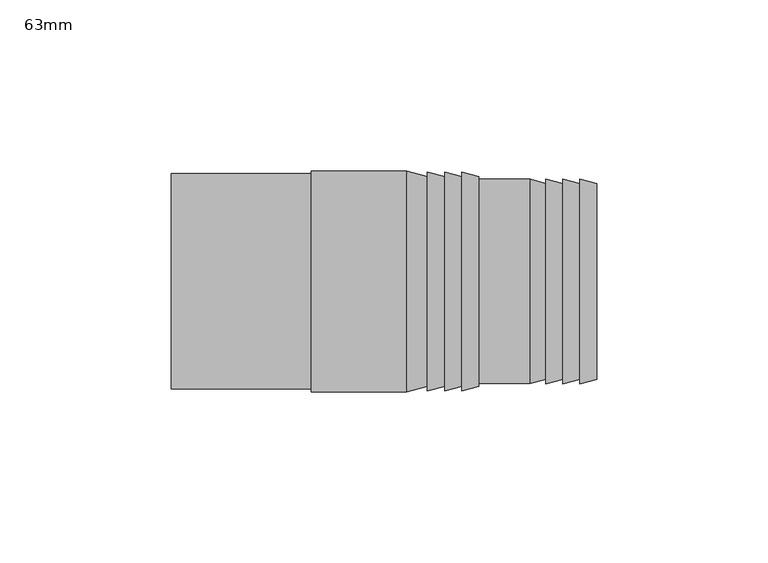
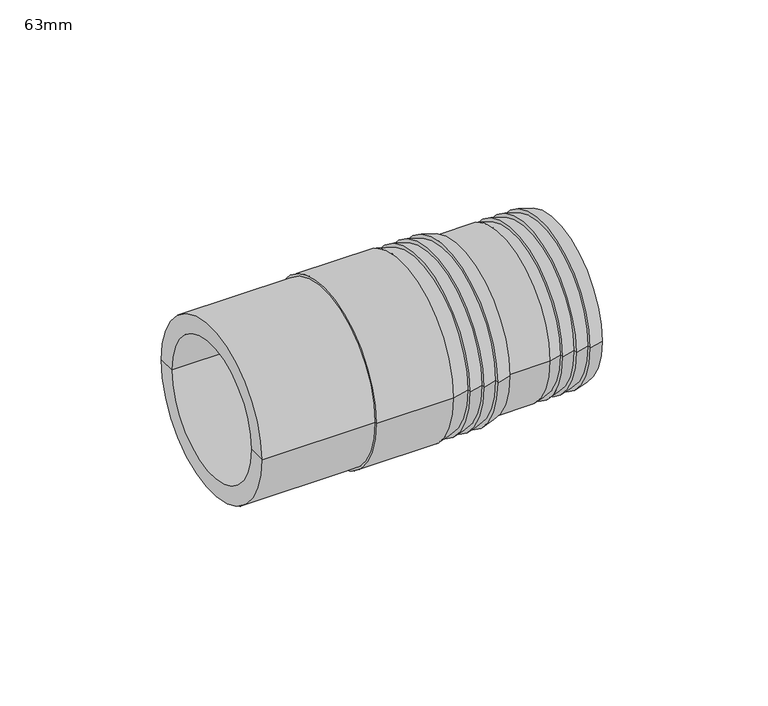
"""IFC4 building model written with IfcOpenShell, lengths in millimetres: pipe fitting geometry, Durapipe_PipeAccessories_PVC_HoseAdaptor : 63mm."""

from ifc_helpers import new_model, si_unit, frame, origin, place, context, project, spatial, polyline, circle_curve, source, transform, mapped, element, save
from ifc_brep_helpers import plane_surface, cylinder_surface, revolved_surface, advanced_brep


def pipe_fitting_63mm_7880f9b0(model_context):
    return source(origin(), model_context, "Body", "AdvancedBrep", [
        advanced_brep(
        [(62.2, -28.660254, 0.0), (62.2, 28.660254, 0.0), (62.2, 25.0, 0.0), (62.2, -25.0, 0.0), (57.2, -30.0, 0.0), (57.2, 30.0, 0.0), (57.2, -28.660254, 0.0), (57.2, 28.660254, 0.0), (52.2, -30.0, 0.0), (52.2, 30.0, 0.0), (52.2, -28.660254, 0.0), (52.2, 28.660254, 0.0), (47.2, -30.0, 0.0), (47.2, 30.0, 0.0), (47.2, -28.660254, 0.0), (47.2, 28.660254, 0.0), (42.721539, -29.860254, 0.0), (42.721539, 29.860254, 0.0), (27.7, -29.860254, 0.0), (27.7, 29.860254, 0.0), (27.7, -30.660254, 0.0), (27.7, 30.660254, 0.0), (22.7, -32.0, 0.0), (22.7, 32.0, 0.0), (22.7, -30.660254, 0.0), (22.7, 30.660254, 0.0), (17.7, -32.0, 0.0), (17.7, 32.0, 0.0), (17.7, -30.660254, 0.0), (17.7, 30.660254, 0.0), (12.7, -32.0, 0.0), (12.7, 32.0, 0.0), (12.7, -30.660254, 0.0), (12.7, 30.660254, 0.0), (6.5803848, -32.3, 0.0), (6.5803848, 32.3, 0.0), (-21.3, -32.3, 0.0), (-21.3, 32.3, 0.0), (-21.3, -31.5, 0.0), (-21.3, 31.5, 0.0), (-62.2, -31.5, 0.0), (-62.2, 31.5, 0.0), (-62.2, -25.0, 0.0), (-62.2, 25.0, 0.0)],
        [
            (0, 1, circle_curve(frame((62.2, 0.0, 0.0), z_axis=(1.0, 0.0, 0.0), x_axis=(0.0, 1.0, 0.0)), 28.660254)),
            (1, 2),
            (2, 3, circle_curve(frame((62.2, 0.0, 0.0), z_axis=(-1.0, 0.0, 0.0), x_axis=(0.0, 1.0, 0.0)), 25.0)),
            (3, 0),
            (1, 0, circle_curve(frame((62.2, 0.0, 0.0), z_axis=(1.0, 0.0, 0.0), x_axis=(0.0, 1.0, 0.0)), 28.660254)),
            (3, 2, circle_curve(frame((62.2, 0.0, 0.0), z_axis=(-1.0, 0.0, 0.0), x_axis=(0.0, 1.0, 0.0)), 25.0)),
            (4, 5, circle_curve(frame((57.2, 0.0, 0.0), z_axis=(1.0, 0.0, 0.0), x_axis=(0.0, 1.0, 0.0)), 30.0)),
            (5, 1),
            (0, 4),
            (5, 4, circle_curve(frame((57.2, 0.0, 0.0), z_axis=(1.0, 0.0, 0.0), x_axis=(0.0, 1.0, 0.0)), 30.0)),
            (6, 7, circle_curve(frame((57.2, 0.0, 0.0), z_axis=(1.0, 0.0, 0.0), x_axis=(0.0, 1.0, 0.0)), 28.660254)),
            (7, 5),
            (4, 6),
            (7, 6, circle_curve(frame((57.2, 0.0, 0.0), z_axis=(1.0, 0.0, 0.0), x_axis=(0.0, 1.0, 0.0)), 28.660254)),
            (8, 9, circle_curve(frame((52.2, 0.0, 0.0), z_axis=(1.0, 0.0, 0.0), x_axis=(0.0, 1.0, 0.0)), 30.0)),
            (9, 7),
            (6, 8),
            (9, 8, circle_curve(frame((52.2, 0.0, 0.0), z_axis=(1.0, 0.0, 0.0), x_axis=(0.0, 1.0, 0.0)), 30.0)),
            (10, 11, circle_curve(frame((52.2, 0.0, 0.0), z_axis=(1.0, 0.0, 0.0), x_axis=(0.0, 1.0, 0.0)), 28.660254)),
            (11, 9),
            (8, 10),
            (11, 10, circle_curve(frame((52.2, 0.0, 0.0), z_axis=(1.0, 0.0, 0.0), x_axis=(0.0, 1.0, 0.0)), 28.660254)),
            (12, 13, circle_curve(frame((47.2, 0.0, 0.0), z_axis=(1.0, 0.0, 0.0), x_axis=(0.0, 1.0, 0.0)), 30.0)),
            (13, 11),
            (10, 12),
            (13, 12, circle_curve(frame((47.2, 0.0, 0.0), z_axis=(1.0, 0.0, 0.0), x_axis=(0.0, 1.0, 0.0)), 30.0)),
            (14, 15, circle_curve(frame((47.2, 0.0, 0.0), z_axis=(1.0, 0.0, 0.0), x_axis=(0.0, 1.0, 0.0)), 28.660254)),
            (15, 13),
            (12, 14),
            (15, 14, circle_curve(frame((47.2, 0.0, 0.0), z_axis=(1.0, 0.0, 0.0), x_axis=(0.0, 1.0, 0.0)), 28.660254)),
            (16, 17, circle_curve(frame((42.721539, 0.0, 0.0), z_axis=(1.0, 0.0, 0.0), x_axis=(0.0, 1.0, 0.0)), 29.860254)),
            (17, 15),
            (14, 16),
            (17, 16, circle_curve(frame((42.721539, 0.0, 0.0), z_axis=(1.0, 0.0, 0.0), x_axis=(0.0, 1.0, 0.0)), 29.860254)),
            (18, 19, circle_curve(frame((27.7, 0.0, 0.0), z_axis=(1.0, 0.0, 0.0), x_axis=(0.0, 1.0, 0.0)), 29.860254)),
            (19, 17),
            (16, 18),
            (19, 18, circle_curve(frame((27.7, 0.0, 0.0), z_axis=(1.0, 0.0, 0.0), x_axis=(0.0, 1.0, 0.0)), 29.860254)),
            (20, 21, circle_curve(frame((27.7, 0.0, 0.0), z_axis=(1.0, 0.0, 0.0), x_axis=(0.0, 1.0, 0.0)), 30.660254)),
            (21, 19),
            (18, 20),
            (21, 20, circle_curve(frame((27.7, 0.0, 0.0), z_axis=(1.0, 0.0, 0.0), x_axis=(0.0, 1.0, 0.0)), 30.660254)),
            (22, 23, circle_curve(frame((22.7, 0.0, 0.0), z_axis=(1.0, 0.0, 0.0), x_axis=(0.0, 1.0, 0.0)), 32.0)),
            (23, 21),
            (20, 22),
            (23, 22, circle_curve(frame((22.7, 0.0, 0.0), z_axis=(1.0, 0.0, 0.0), x_axis=(0.0, 1.0, 0.0)), 32.0)),
            (24, 25, circle_curve(frame((22.7, 0.0, 0.0), z_axis=(1.0, 0.0, 0.0), x_axis=(0.0, 1.0, 0.0)), 30.660254)),
            (25, 23),
            (22, 24),
            (25, 24, circle_curve(frame((22.7, 0.0, 0.0), z_axis=(1.0, 0.0, 0.0), x_axis=(0.0, 1.0, 0.0)), 30.660254)),
            (26, 27, circle_curve(frame((17.7, 0.0, 0.0), z_axis=(1.0, 0.0, 0.0), x_axis=(0.0, 1.0, 0.0)), 32.0)),
            (27, 25),
            (24, 26),
            (27, 26, circle_curve(frame((17.7, 0.0, 0.0), z_axis=(1.0, 0.0, 0.0), x_axis=(0.0, 1.0, 0.0)), 32.0)),
            (28, 29, circle_curve(frame((17.7, 0.0, 0.0), z_axis=(1.0, 0.0, 0.0), x_axis=(0.0, 1.0, 0.0)), 30.660254)),
            (29, 27),
            (26, 28),
            (29, 28, circle_curve(frame((17.7, 0.0, 0.0), z_axis=(1.0, 0.0, 0.0), x_axis=(0.0, 1.0, 0.0)), 30.660254)),
            (30, 31, circle_curve(frame((12.7, 0.0, 0.0), z_axis=(1.0, 0.0, 0.0), x_axis=(0.0, 1.0, 0.0)), 32.0)),
            (31, 29),
            (28, 30),
            (31, 30, circle_curve(frame((12.7, 0.0, 0.0), z_axis=(1.0, 0.0, 0.0), x_axis=(0.0, 1.0, 0.0)), 32.0)),
            (32, 33, circle_curve(frame((12.7, 0.0, 0.0), z_axis=(1.0, 0.0, 0.0), x_axis=(0.0, 1.0, 0.0)), 30.660254)),
            (33, 31),
            (30, 32),
            (33, 32, circle_curve(frame((12.7, 0.0, 0.0), z_axis=(1.0, 0.0, 0.0), x_axis=(0.0, 1.0, 0.0)), 30.660254)),
            (34, 35, circle_curve(frame((6.5803848, 0.0, 0.0), z_axis=(1.0, 0.0, 0.0), x_axis=(0.0, 1.0, 0.0)), 32.3)),
            (35, 33),
            (32, 34),
            (35, 34, circle_curve(frame((6.5803848, 0.0, 0.0), z_axis=(1.0, 0.0, 0.0), x_axis=(0.0, 1.0, 0.0)), 32.3)),
            (36, 37, circle_curve(frame((-21.3, 0.0, 0.0), z_axis=(1.0, 0.0, 0.0), x_axis=(0.0, 1.0, 0.0)), 32.3)),
            (37, 35),
            (34, 36),
            (37, 36, circle_curve(frame((-21.3, 0.0, 0.0), z_axis=(1.0, 0.0, 0.0), x_axis=(0.0, 1.0, 0.0)), 32.3)),
            (38, 39, circle_curve(frame((-21.3, 0.0, 0.0), z_axis=(1.0, 0.0, 0.0), x_axis=(0.0, 1.0, 0.0)), 31.5)),
            (39, 37),
            (36, 38),
            (39, 38, circle_curve(frame((-21.3, 0.0, 0.0), z_axis=(1.0, 0.0, 0.0), x_axis=(0.0, 1.0, 0.0)), 31.5)),
            (40, 41, circle_curve(frame((-62.2, 0.0, 0.0), z_axis=(1.0, 0.0, 0.0), x_axis=(0.0, 1.0, 0.0)), 31.5)),
            (41, 39),
            (38, 40),
            (41, 40, circle_curve(frame((-62.2, 0.0, 0.0), z_axis=(1.0, 0.0, 0.0), x_axis=(0.0, 1.0, 0.0)), 31.5)),
            (42, 43, circle_curve(frame((-62.2, 0.0, 0.0), z_axis=(1.0, 0.0, 0.0), x_axis=(0.0, 1.0, 0.0)), 25.0)),
            (43, 41),
            (40, 42),
            (43, 42, circle_curve(frame((-62.2, 0.0, 0.0), z_axis=(1.0, 0.0, 0.0), x_axis=(0.0, 1.0, 0.0)), 25.0)),
            (2, 43),
            (42, 3),
        ],
        [
            plane_surface(frame((62.2, 0.0, 0.0), z_axis=(1.0, 0.0, 0.0), x_axis=(0.0, 1.0, 0.0))),
            revolved_surface(polyline([(62.2, 28.660254, 0.0), (57.2, 30.0, 0.0)]), (-62.2, 0.0, 0.0), (-1.0, 0.0, 0.0)),
            plane_surface(frame((57.2, 0.0, 0.0), z_axis=(-1.0, 0.0, 0.0), x_axis=(0.0, 1.0, 0.0))),
            revolved_surface(polyline([(57.2, 28.660254, 0.0), (52.2, 30.0, 0.0)]), (-62.2, 0.0, 0.0), (-1.0, 0.0, 0.0)),
            plane_surface(frame((52.2, 0.0, 0.0), z_axis=(-1.0, 0.0, 0.0), x_axis=(0.0, 1.0, 0.0))),
            revolved_surface(polyline([(52.2, 28.660254, 0.0), (47.2, 30.0, 0.0)]), (-62.2, 0.0, 0.0), (-1.0, 0.0, 0.0)),
            plane_surface(frame((47.2, 0.0, 0.0), z_axis=(-1.0, 0.0, 0.0), x_axis=(0.0, 1.0, 0.0))),
            revolved_surface(polyline([(47.2, 28.660254, 0.0), (42.721539, 29.860254, 0.0)]), (-62.2, 0.0, 0.0), (-1.0, 0.0, 0.0)),
            cylinder_surface(frame((-62.2, 0.0, 0.0), z_axis=(-1.0, 0.0, 0.0), x_axis=(0.0, 1.0, 0.0)), 29.860254),
            plane_surface(frame((27.7, 0.0, 0.0), z_axis=(1.0, 0.0, 0.0), x_axis=(0.0, 1.0, 0.0))),
            revolved_surface(polyline([(27.7, 30.660254, 0.0), (22.7, 32.0, 0.0)]), (-62.2, 0.0, 0.0), (-1.0, 0.0, 0.0)),
            plane_surface(frame((22.7, 0.0, 0.0), z_axis=(-1.0, 0.0, 0.0), x_axis=(0.0, 1.0, 0.0))),
            revolved_surface(polyline([(22.7, 30.660254, 0.0), (17.7, 32.0, 0.0)]), (-62.2, 0.0, 0.0), (-1.0, 0.0, 0.0)),
            plane_surface(frame((17.7, 0.0, 0.0), z_axis=(-1.0, 0.0, 0.0), x_axis=(0.0, 1.0, 0.0))),
            revolved_surface(polyline([(17.7, 30.660254, 0.0), (12.7, 32.0, 0.0)]), (-62.2, 0.0, 0.0), (-1.0, 0.0, 0.0)),
            plane_surface(frame((12.7, 0.0, 0.0), z_axis=(-1.0, 0.0, 0.0), x_axis=(0.0, 1.0, 0.0))),
            revolved_surface(polyline([(12.7, 30.660254, 0.0), (6.5803848, 32.3, 0.0)]), (-62.2, 0.0, 0.0), (-1.0, 0.0, 0.0)),
            cylinder_surface(frame((-62.2, 0.0, 0.0), z_axis=(-1.0, 0.0, 0.0), x_axis=(0.0, 1.0, 0.0)), 32.3),
            plane_surface(frame((-21.3, 0.0, 0.0), z_axis=(-1.0, 0.0, 0.0), x_axis=(0.0, 1.0, 0.0))),
            cylinder_surface(frame((-62.2, 0.0, 0.0), z_axis=(-1.0, 0.0, 0.0), x_axis=(0.0, 1.0, 0.0)), 31.5),
            plane_surface(frame((-62.2, 0.0, 0.0), z_axis=(-1.0, 0.0, 0.0), x_axis=(0.0, 1.0, 0.0))),
            revolved_surface(polyline([(-62.2, 25.0, 0.0), (62.2, 25.0, 0.0)]), (-62.2, 0.0, 0.0), (-1.0, 0.0, 0.0)),
        ],
        [
            (0, [[1, 2, 3, 4]]),
            (0, [[5, -4, 6, -2]]),
            (1, [[7, 8, -1, 9]]),
            (1, [[10, -9, -5, -8]]),
            (2, [[11, 12, -7, 13]]),
            (2, [[14, -13, -10, -12]]),
            (3, [[15, 16, -11, 17]]),
            (3, [[18, -17, -14, -16]]),
            (4, [[19, 20, -15, 21]]),
            (4, [[22, -21, -18, -20]]),
            (5, [[23, 24, -19, 25]]),
            (5, [[26, -25, -22, -24]]),
            (6, [[27, 28, -23, 29]]),
            (6, [[30, -29, -26, -28]]),
            (7, [[31, 32, -27, 33]]),
            (7, [[34, -33, -30, -32]]),
            (8, [[35, 36, -31, 37]]),
            (8, [[38, -37, -34, -36]]),
            (9, [[39, 40, -35, 41]]),
            (9, [[42, -41, -38, -40]]),
            (10, [[43, 44, -39, 45]]),
            (10, [[46, -45, -42, -44]]),
            (11, [[47, 48, -43, 49]]),
            (11, [[50, -49, -46, -48]]),
            (12, [[51, 52, -47, 53]]),
            (12, [[54, -53, -50, -52]]),
            (13, [[55, 56, -51, 57]]),
            (13, [[58, -57, -54, -56]]),
            (14, [[59, 60, -55, 61]]),
            (14, [[62, -61, -58, -60]]),
            (15, [[63, 64, -59, 65]]),
            (15, [[66, -65, -62, -64]]),
            (16, [[67, 68, -63, 69]]),
            (16, [[70, -69, -66, -68]]),
            (17, [[71, 72, -67, 73]]),
            (17, [[74, -73, -70, -72]]),
            (18, [[75, 76, -71, 77]]),
            (18, [[78, -77, -74, -76]]),
            (19, [[79, 80, -75, 81]]),
            (19, [[82, -81, -78, -80]]),
            (20, [[83, 84, -79, 85]]),
            (20, [[86, -85, -82, -84]]),
            (21, [[-3, 87, -83, 88]]),
            (21, [[-6, -88, -86, -87]]),
        ],
    ),
    ])


if __name__ == "__main__":
    model = new_model("IFC4")
    model_context = context("Model", 3, world=origin())
    ifc_project = project(units=[si_unit("LENGTHUNIT", "METRE", prefix="MILLI")], contexts=[model_context])
    site = spatial("IfcSite", under=ifc_project)
    building = spatial("IfcBuilding", under=site)
    placement = place(None, origin())
    pipe_fitting_63mm_shape = pipe_fitting_63mm_7880f9b0(model_context)
    element("IfcPipeFitting", 1, ObjectType="Durapipe_PipeAccessories_PVC_HoseAdaptor : 63mm", at=placement, inside=building, context=model_context, shape_type="MappedRepresentation", body=[
        mapped(pipe_fitting_63mm_shape, transform((0.0, 0.0, 0.0), x_axis=(1.0, 0.0, 0.0), y_axis=(0.0, 1.0, 0.0), z_axis=(0.0, 0.0, 1.0))),
    ])
    save(model, "model.ifc")
